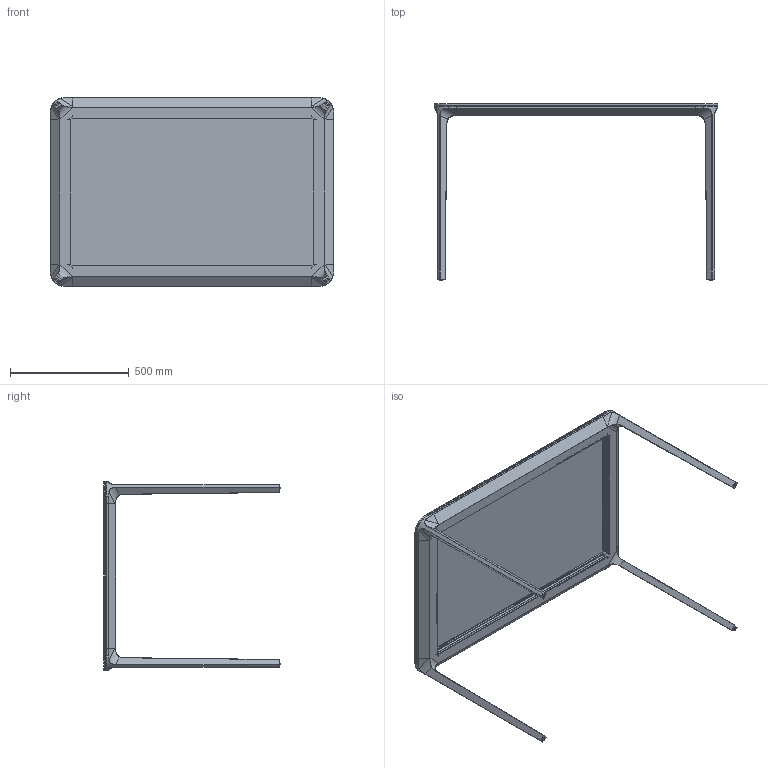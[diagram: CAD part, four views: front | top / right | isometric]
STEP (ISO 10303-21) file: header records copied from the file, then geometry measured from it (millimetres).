
FILE_DESCRIPTION(/* description */ (''),/* implementation_level */ '2;1');
FILE_NAME(/* name */ 'C:\AutodeskVault\AreaLavoro\Progetti\SoVeT Italia\1. Tavoli_Dining tables\Slim\Slim 8\Web file\Slim 8 Web\P1732.stp',/* time_stamp */ '2014-06-06T12:14:09+02:00',/* author */ ('Gianluca'),/* organization */ ('So.Ve.T. s.r.l.'),/* preprocessor_version */ 'ST-DEVELOPER v15.2',/* originating_system */ 'Autodesk Inventor 2014',/* authorisation */ 'IL PROGETTO E'' DI ESCLUSIVA PROPRIETA'' DELLA SO.VE.T. srl. E'' VIETATA OGNI RIPRODUZIONE TOTALE O PARZIALE E QUALSIASI UTILIZZO NON AUTORIZZATO.');
FILE_SCHEMA (('AUTOMOTIVE_DESIGN { 1 0 10303 214 3 1 1 }'));
Length unit declared in the file: centimetre
Products named in the file (1): P1732 Contorno semplificato
Bounding box: 1196 x 743 x 796 mm (x, y, z)
Volume: 19171536.8 mm3; surface area: 3183938.7 mm2
Topology: 2 solids, 2 shells, 332 faces, 872 edges, 544 vertices
Faces by surface type: plane 172, cylinder 112, bspline 32, cone 8, sphere 4, torus 4
Full cylindrical faces by diameter (mm): 12 x4
Entity records: 11585 total; most frequent: CARTESIAN_POINT 3183, ORIENTED_EDGE 1736, DIRECTION 1682, EDGE_CURVE 860, AXIS2_PLACEMENT_3D 569, LINE 544, VECTOR 544, VERTEX_POINT 540
